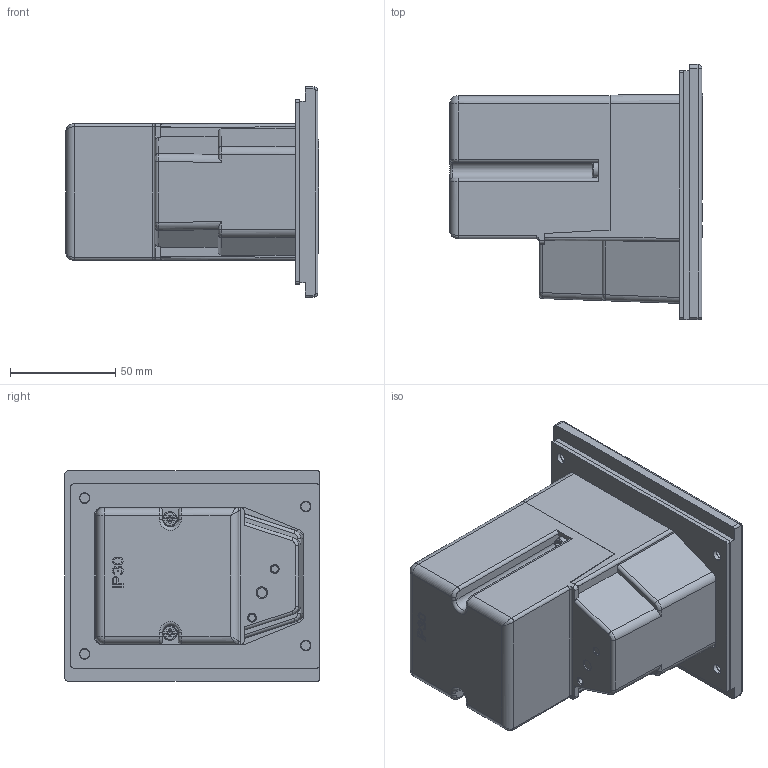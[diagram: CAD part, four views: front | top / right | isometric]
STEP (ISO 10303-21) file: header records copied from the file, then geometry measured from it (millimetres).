
FILE_DESCRIPTION((''),'2;1');
FILE_NAME('PR247_CARACONTACT_TYP_SW0005','2018-02-08T',('gisse'),('MENNEKES'),'PRO/ENGINEER BY PARAMETRIC TECHNOLOGY CORPORATION, 2015440','PRO/ENGINEER BY PARAMETRIC TECHNOLOGY CORPORATION, 2015440','');
FILE_SCHEMA(('AUTOMOTIVE_DESIGN { 1 0 10303 214 1 1 1 1 }'));
Length unit declared in the file: millimetre
Products named in the file (1): PR247_CARACONTACT_TYP_SW0005
Bounding box: 120.5 x 121.02 x 100 mm (x, y, z)
Volume: 686337.4 mm3; surface area: 63603.9 mm2
Topology: 1 solids, 1 shells, 774 faces, 2098 edges, 1374 vertices
Faces by surface type: plane 528, extrusion 106, cylinder 92, cone 24, torus 13, bspline 7, sphere 4
Entity records: 40763 total; most frequent: CARTESIAN_POINT 6206, ORIENTED_EDGE 4188, DIRECTION 3377, PRESENTATION_STYLE_ASSIGNMENT 2913, STYLED_ITEM 2201, CURVE_STYLE 2200, EDGE_CURVE 2094, VECTOR 1609
